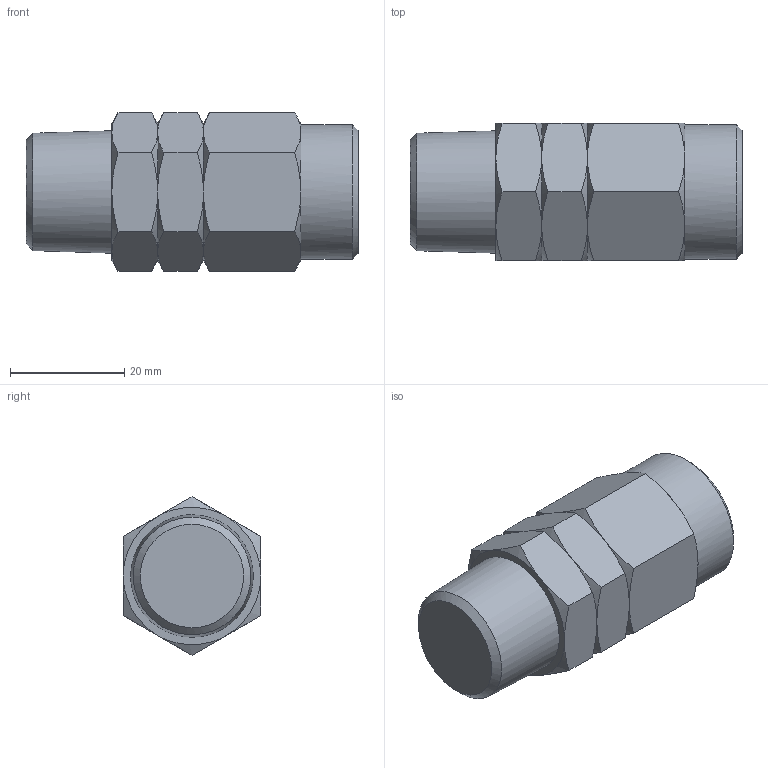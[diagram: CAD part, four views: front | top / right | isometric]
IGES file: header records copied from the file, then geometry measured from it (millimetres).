
Global section: file name: [06] H11-4MU; native system: Autodesk Inventor 2014; preprocessor: unknown; author: kazuhiro.t; date: 20130805.151342; units: millimetre
Bounding box: 58 x 24 x 27.71 mm (x, y, z)
Volume: 22784.1 mm3; surface area: 6148.1 mm2
Topology: 1 solids, 1 shells, 64 faces, 129 edges, 70 vertices
Faces by surface type: bspline 64
